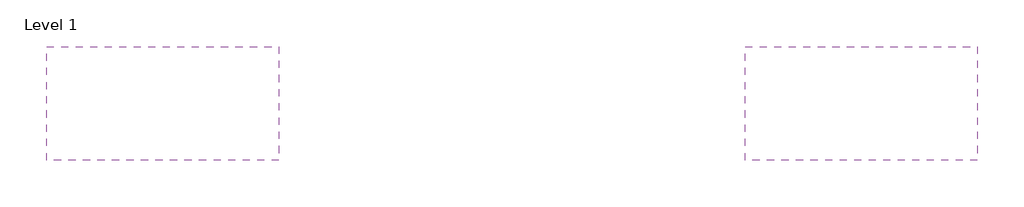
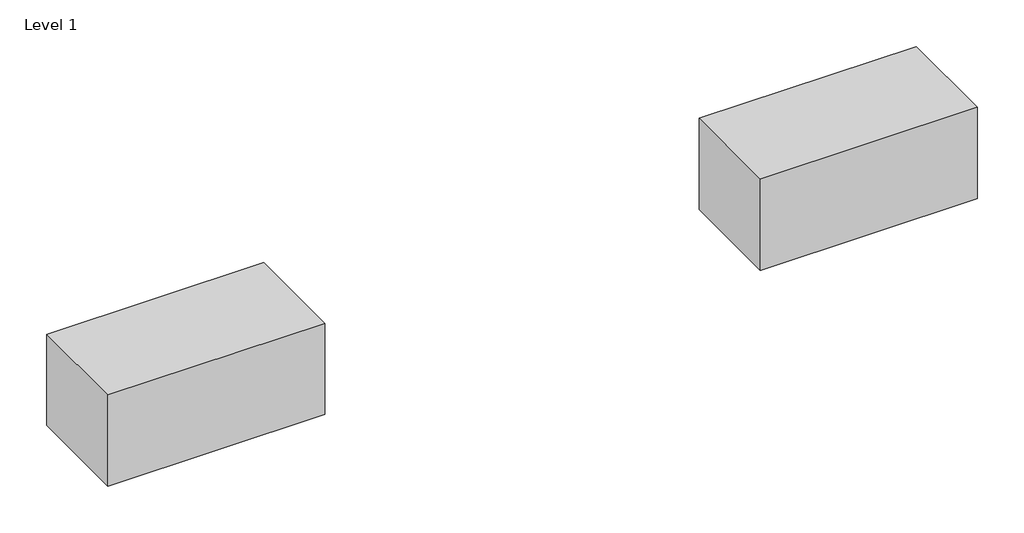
# One storey: 2 proxies.
"""IFC4 building model written with IfcOpenShell, lengths in millimetres."""

from ifc_helpers import new_model, si_unit, origin, place, context, project, spatial, transform, mapped, element, save
from components import generic_models_067c08be

model = new_model("IFC4")

# Units and contexts
model_context = context("Model", 3, world=origin())
ifc_project = project(units=[si_unit("LENGTHUNIT", "METRE", prefix="MILLI")], contexts=[model_context])

# Site, building, storey
site = spatial("IfcSite", under=ifc_project)
building = spatial("IfcBuilding", under=site)
storey = spatial("IfcBuildingStorey", under=building, Name="Level 1", Elevation=4000.0)

# Proxies
placement = place(None, origin())
generic_models_shape = generic_models_067c08be(model_context)
element("IfcBuildingElementProxy", 1, Name="DMS-BWIC Family : BWIC_Square", ObjectType="DMS-BWIC Family : BWIC_Square", at=placement, inside=storey, context=model_context, shape_type="MappedRepresentation", body=[
    mapped(generic_models_shape, transform((2632.2640479, -787.7844268, 7000.0), x_axis=(1.0, 0.0, 0.0), y_axis=(0.0, 0.0, 1.0), z_axis=(0.0, -1.0, 0.0))),
])
element("IfcBuildingElementProxy", 2, Name="DMS-BWIC Family : BWIC_Square", ObjectType="DMS-BWIC Family : BWIC_Square", at=placement, inside=storey, context=model_context, shape_type="MappedRepresentation", body=[
    mapped(generic_models_shape, transform((5338.7114898, -787.7844268, 7000.0), x_axis=(1.0, 0.0, 0.0), y_axis=(0.0, 0.0, 1.0), z_axis=(0.0, -1.0, 0.0))),
])

save(model, "model.ifc")
